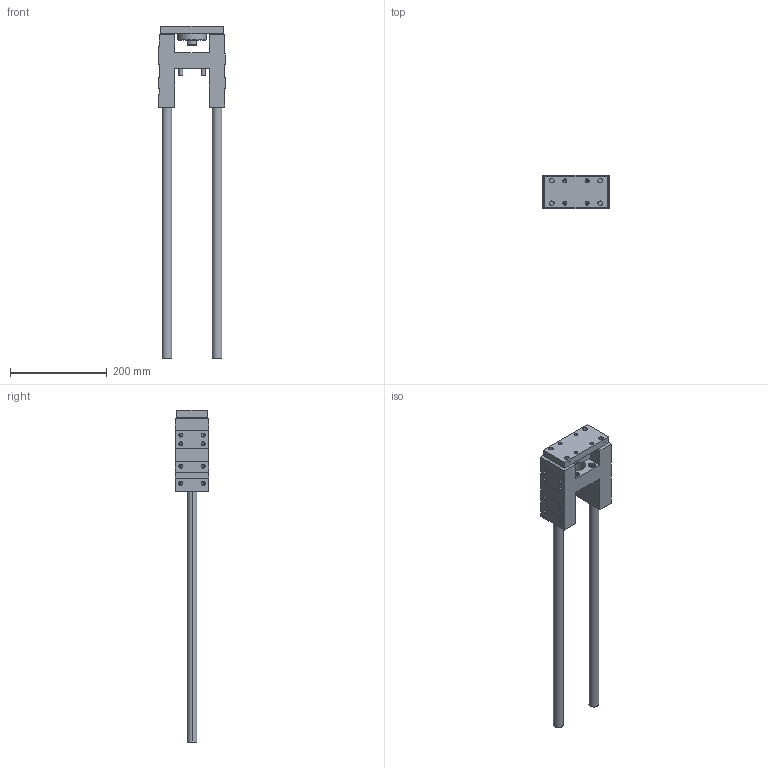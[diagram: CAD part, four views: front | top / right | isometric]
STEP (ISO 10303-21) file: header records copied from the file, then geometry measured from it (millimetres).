
FILE_DESCRIPTION (( 'STEP AP203' ), '1' );
FILE_NAME ('GB50-500.STEP', '2020-04-24T13:17:26', ( '' ), ( '' ), 'SwSTEP 2.0', 'SolidWorks 2019', '' );
FILE_SCHEMA (( 'CONFIG_CONTROL_DESIGN' ));
Length unit declared in the file: millimetre
Products named in the file (1): GB50-500
Bounding box: 137 x 70 x 688 mm (x, y, z)
Volume: 1291118.6 mm3; surface area: 231316.4 mm2
Topology: 6 solids, 6 shells, 377 faces, 852 edges, 480 vertices
Faces by surface type: cone 154, plane 117, cylinder 106
Entity records: 10863 total; most frequent: CARTESIAN_POINT 2350, DIRECTION 1902, ORIENTED_EDGE 1624, EDGE_CURVE 812, AXIS2_PLACEMENT_3D 744, VERTEX_POINT 480, EDGE_LOOP 440, LINE 414
